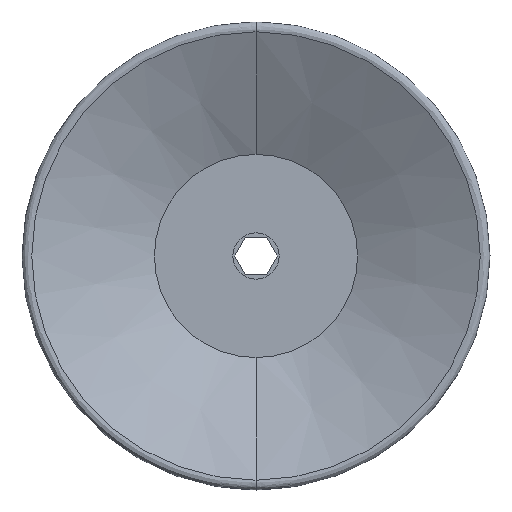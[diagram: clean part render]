
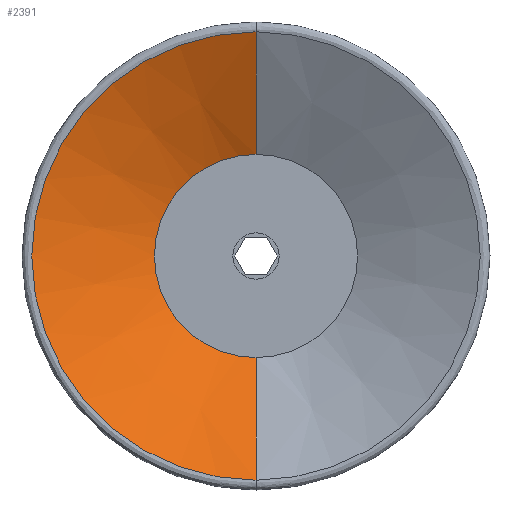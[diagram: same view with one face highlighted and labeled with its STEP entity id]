
A CAD part, front view. The second image highlights one B-rep face of the part: STEP entity #2391.
In plain terms, the highlighted conical face has half-angle 63.597 degrees and reference radius 36.411 mm.
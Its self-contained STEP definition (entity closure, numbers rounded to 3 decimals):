
#19 = VECTOR ( 'NONE', #4963, 1000. ) ;
#184 = ORIENTED_EDGE ( 'NONE', *, *, #10281, .F. ) ;
#365 = VECTOR ( 'NONE', #6202, 1000. ) ;
#496 = CARTESIAN_POINT ( 'NONE',  ( 0., -13., -16.5 ) ) ;
#606 = VERTEX_POINT ( 'NONE', #496 ) ;
#1617 = VERTEX_POINT ( 'NONE', #7894 ) ;
#1969 = DIRECTION ( 'NONE',  ( 0., 1., 0. ) ) ;
#2038 = CIRCLE ( 'NONE', #12281, 36.411 ) ;
#2391 = ADVANCED_FACE ( 'NONE', ( #6989 ), #10348, .F. ) ;
#2614 = CARTESIAN_POINT ( 'NONE',  ( 0., -13., 16.5 ) ) ;
#3141 = LINE ( 'NONE', #7128, #19 ) ;
#3309 = CARTESIAN_POINT ( 'NONE',  ( 0., -22.885, -36.411 ) ) ;
#3443 = DIRECTION ( 'NONE',  ( 0., 0., -1. ) ) ;
#3669 = DIRECTION ( 'NONE',  ( 0., -1., 0. ) ) ;
#3792 = CARTESIAN_POINT ( 'NONE',  ( 0., -22.885, 0. ) ) ;
#4724 = AXIS2_PLACEMENT_3D ( 'NONE', #4826, #12333, #5920 ) ;
#4826 = CARTESIAN_POINT ( 'NONE',  ( 0., -13., 0. ) ) ;
#4963 = DIRECTION ( 'NONE',  ( 0., -0.445, -0.896 ) ) ;
#5867 = EDGE_LOOP ( 'NONE', ( #184, #10829, #8866, #10714 ) ) ;
#5920 = DIRECTION ( 'NONE',  ( 0., 0., -1. ) ) ;
#6093 = AXIS2_PLACEMENT_3D ( 'NONE', #3792, #3669, #3443 ) ;
#6202 = DIRECTION ( 'NONE',  ( 0., -0.445, 0.896 ) ) ;
#6975 = CIRCLE ( 'NONE', #4724, 16.5 ) ;
#6989 = FACE_OUTER_BOUND ( 'NONE', #5867, .T. ) ;
#7128 = CARTESIAN_POINT ( 'NONE',  ( 0., -22.885, -36.411 ) ) ;
#7894 = CARTESIAN_POINT ( 'NONE',  ( 0., -22.885, 36.411 ) ) ;
#8301 = CARTESIAN_POINT ( 'NONE',  ( 0., -22.885, 0. ) ) ;
#8800 = LINE ( 'NONE', #11306, #365 ) ;
#8866 = ORIENTED_EDGE ( 'NONE', *, *, #12533, .F. ) ;
#9372 = DIRECTION ( 'NONE',  ( 0., 0., 1. ) ) ;
#9703 = VERTEX_POINT ( 'NONE', #3309 ) ;
#10281 = EDGE_CURVE ( 'NONE', #13681, #606, #6975, .T. ) ;
#10348 = CONICAL_SURFACE ( 'NONE', #6093, 36.411, 1.11 ) ;
#10474 = EDGE_CURVE ( 'NONE', #13681, #1617, #8800, .T. ) ;
#10672 = EDGE_CURVE ( 'NONE', #606, #9703, #3141, .T. ) ;
#10714 = ORIENTED_EDGE ( 'NONE', *, *, #10672, .F. ) ;
#10829 = ORIENTED_EDGE ( 'NONE', *, *, #10474, .T. ) ;
#11306 = CARTESIAN_POINT ( 'NONE',  ( 0., -22.885, 36.411 ) ) ;
#12281 = AXIS2_PLACEMENT_3D ( 'NONE', #8301, #1969, #9372 ) ;
#12333 = DIRECTION ( 'NONE',  ( 0., -1., 0. ) ) ;
#12533 = EDGE_CURVE ( 'NONE', #9703, #1617, #2038, .T. ) ;
#13681 = VERTEX_POINT ( 'NONE', #2614 ) ;
